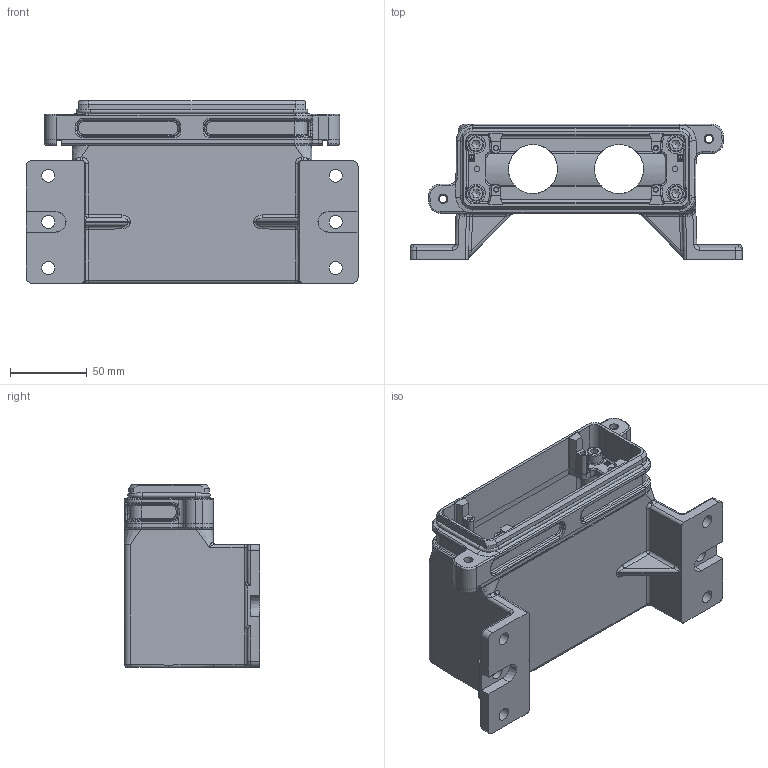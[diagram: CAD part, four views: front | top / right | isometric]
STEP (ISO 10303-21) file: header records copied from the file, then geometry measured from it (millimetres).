
FILE_DESCRIPTION(/* description */ (''),/* implementation_level */ '2;1');
FILE_NAME(/* name */ '100671418ugm000_f.stp',/* time_stamp */ '2022-07-28T14:49:30+02:00',/* author */ (''),/* organization */ (''),/* preprocessor_version */ 'ST-DEVELOPER v16.7',/* originating_system */ 'SIEMENS PLM Software NX 1911',/* authorisation */ '');
FILE_SCHEMA (('AUTOMOTIVE_DESIGN { 1 0 10303 214 3 1 1 1 }'));
Length unit declared in the file: millimetre
Products named in the file (1): 100671418ugm000_f
Bounding box: 216 x 88 x 118.9 mm (x, y, z)
Volume: 458786.7 mm3; surface area: 139527.2 mm2
Topology: 1 solids, 5 shells, 1048 faces, 2676 edges, 1646 vertices
Faces by surface type: plane 503, cylinder 268, bspline 121, cone 88, torus 56, sphere 12
Full cylindrical faces by diameter (mm): 3 x4, 3.355 x2, 3.599 x2, 3.7 x2, 5 x2, 6 x2, 8.5 x6, 10 x4, 12 x4, 32 x2
Entity records: 47532 total; most frequent: CARTESIAN_POINT 15842, ORIENTED_EDGE 5154, DIRECTION 4893, EDGE_CURVE 2577, AXIS2_PLACEMENT_3D 1686, VERTEX_POINT 1621, LINE 1521, VECTOR 1521
